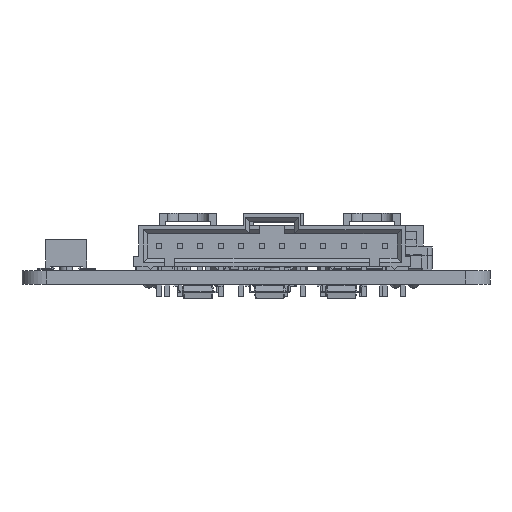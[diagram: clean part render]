
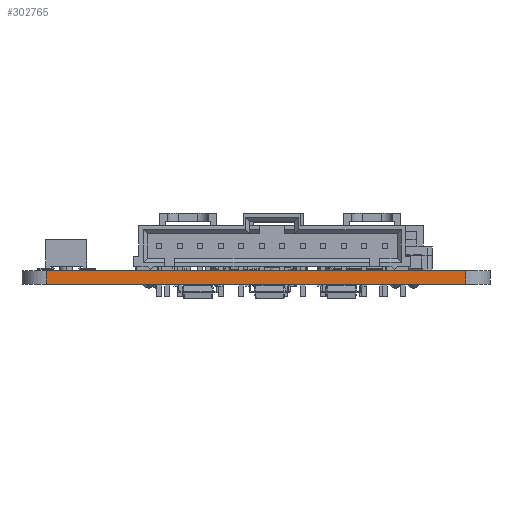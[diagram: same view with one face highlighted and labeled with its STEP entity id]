
A CAD part, left-side view. The second image highlights one B-rep face of the part: STEP entity #302765.
In plain terms, the highlighted planar face has unit normal (-1, 0, 0).
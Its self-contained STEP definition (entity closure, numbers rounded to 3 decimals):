
#297187 = PLANE('',#297188);
#297188 = AXIS2_PLACEMENT_3D('',#297189,#297190,#297191);
#297189 = CARTESIAN_POINT('',(92.5,-98.,1.684));
#297190 = DIRECTION('',(0.,0.,1.));
#297191 = DIRECTION('',(1.,0.,-0.));
#297215 = CYLINDRICAL_SURFACE('',#297216,3.);
#297216 = AXIS2_PLACEMENT_3D('',#297217,#297218,#297219);
#297217 = CARTESIAN_POINT('',(63.,-72.,0.));
#297218 = DIRECTION('',(-0.,-0.,-1.));
#297219 = DIRECTION('',(1.,0.,-0.));
#297241 = PLANE('',#297242);
#297242 = AXIS2_PLACEMENT_3D('',#297243,#297244,#297245);
#297243 = CARTESIAN_POINT('',(92.5,-98.,0.));
#297244 = DIRECTION('',(0.,0.,1.));
#297245 = DIRECTION('',(1.,0.,-0.));
#297336 = VERTEX_POINT('',#297337);
#297337 = CARTESIAN_POINT('',(60.,-72.,1.684));
#297359 = EDGE_CURVE('',#297360,#297336,#297362,.T.);
#297360 = VERTEX_POINT('',#297361);
#297361 = CARTESIAN_POINT('',(60.,-72.,0.));
#297362 = SURFACE_CURVE('',#297363,(#297367,#297374),.PCURVE_S1.);
#297363 = LINE('',#297364,#297365);
#297364 = CARTESIAN_POINT('',(60.,-72.,0.));
#297365 = VECTOR('',#297366,1.);
#297366 = DIRECTION('',(0.,0.,1.));
#297367 = PCURVE('',#297215,#297368);
#297368 = DEFINITIONAL_REPRESENTATION('',(#297369),#297373);
#297369 = LINE('',#297370,#297371);
#297370 = CARTESIAN_POINT('',(-3.142,0.));
#297371 = VECTOR('',#297372,1.);
#297372 = DIRECTION('',(-0.,-1.));
#297373 = ( GEOMETRIC_REPRESENTATION_CONTEXT(2) 
PARAMETRIC_REPRESENTATION_CONTEXT() REPRESENTATION_CONTEXT('2D SPACE',''
  ) );
#297374 = PCURVE('',#297375,#297380);
#297375 = PLANE('',#297376);
#297376 = AXIS2_PLACEMENT_3D('',#297377,#297378,#297379);
#297377 = CARTESIAN_POINT('',(60.,-72.,0.));
#297378 = DIRECTION('',(1.,0.,-0.));
#297379 = DIRECTION('',(0.,-1.,0.));
#297380 = DEFINITIONAL_REPRESENTATION('',(#297381),#297385);
#297381 = LINE('',#297382,#297383);
#297382 = CARTESIAN_POINT('',(0.,0.));
#297383 = VECTOR('',#297384,1.);
#297384 = DIRECTION('',(0.,-1.));
#297385 = ( GEOMETRIC_REPRESENTATION_CONTEXT(2) 
PARAMETRIC_REPRESENTATION_CONTEXT() REPRESENTATION_CONTEXT('2D SPACE',''
  ) );
#297414 = EDGE_CURVE('',#297360,#297415,#297417,.T.);
#297415 = VERTEX_POINT('',#297416);
#297416 = CARTESIAN_POINT('',(60.,-124.,0.));
#297417 = SURFACE_CURVE('',#297418,(#297422,#297429),.PCURVE_S1.);
#297418 = LINE('',#297419,#297420);
#297419 = CARTESIAN_POINT('',(60.,-72.,0.));
#297420 = VECTOR('',#297421,1.);
#297421 = DIRECTION('',(0.,-1.,0.));
#297422 = PCURVE('',#297241,#297423);
#297423 = DEFINITIONAL_REPRESENTATION('',(#297424),#297428);
#297424 = LINE('',#297425,#297426);
#297425 = CARTESIAN_POINT('',(-32.5,26.));
#297426 = VECTOR('',#297427,1.);
#297427 = DIRECTION('',(0.,-1.));
#297428 = ( GEOMETRIC_REPRESENTATION_CONTEXT(2) 
PARAMETRIC_REPRESENTATION_CONTEXT() REPRESENTATION_CONTEXT('2D SPACE',''
  ) );
#297429 = PCURVE('',#297375,#297430);
#297430 = DEFINITIONAL_REPRESENTATION('',(#297431),#297435);
#297431 = LINE('',#297432,#297433);
#297432 = CARTESIAN_POINT('',(0.,0.));
#297433 = VECTOR('',#297434,1.);
#297434 = DIRECTION('',(1.,0.));
#297435 = ( GEOMETRIC_REPRESENTATION_CONTEXT(2) 
PARAMETRIC_REPRESENTATION_CONTEXT() REPRESENTATION_CONTEXT('2D SPACE',''
  ) );
#297454 = CYLINDRICAL_SURFACE('',#297455,3.);
#297455 = AXIS2_PLACEMENT_3D('',#297456,#297457,#297458);
#297456 = CARTESIAN_POINT('',(63.,-124.,0.));
#297457 = DIRECTION('',(-0.,-0.,-1.));
#297458 = DIRECTION('',(1.,0.,-0.));
#300309 = EDGE_CURVE('',#297336,#300310,#300312,.T.);
#300310 = VERTEX_POINT('',#300311);
#300311 = CARTESIAN_POINT('',(60.,-124.,1.684));
#300312 = SURFACE_CURVE('',#300313,(#300317,#300324),.PCURVE_S1.);
#300313 = LINE('',#300314,#300315);
#300314 = CARTESIAN_POINT('',(60.,-72.,1.684));
#300315 = VECTOR('',#300316,1.);
#300316 = DIRECTION('',(0.,-1.,0.));
#300317 = PCURVE('',#297187,#300318);
#300318 = DEFINITIONAL_REPRESENTATION('',(#300319),#300323);
#300319 = LINE('',#300320,#300321);
#300320 = CARTESIAN_POINT('',(-32.5,26.));
#300321 = VECTOR('',#300322,1.);
#300322 = DIRECTION('',(0.,-1.));
#300323 = ( GEOMETRIC_REPRESENTATION_CONTEXT(2) 
PARAMETRIC_REPRESENTATION_CONTEXT() REPRESENTATION_CONTEXT('2D SPACE',''
  ) );
#300324 = PCURVE('',#297375,#300325);
#300325 = DEFINITIONAL_REPRESENTATION('',(#300326),#300330);
#300326 = LINE('',#300327,#300328);
#300327 = CARTESIAN_POINT('',(0.,-1.684));
#300328 = VECTOR('',#300329,1.);
#300329 = DIRECTION('',(1.,0.));
#300330 = ( GEOMETRIC_REPRESENTATION_CONTEXT(2) 
PARAMETRIC_REPRESENTATION_CONTEXT() REPRESENTATION_CONTEXT('2D SPACE',''
  ) );
#302765 = ADVANCED_FACE('',(#302766),#297375,.F.);
#302766 = FACE_BOUND('',#302767,.F.);
#302767 = EDGE_LOOP('',(#302768,#302769,#302770,#302791));
#302768 = ORIENTED_EDGE('',*,*,#297359,.T.);
#302769 = ORIENTED_EDGE('',*,*,#300309,.T.);
#302770 = ORIENTED_EDGE('',*,*,#302771,.F.);
#302771 = EDGE_CURVE('',#297415,#300310,#302772,.T.);
#302772 = SURFACE_CURVE('',#302773,(#302777,#302784),.PCURVE_S1.);
#302773 = LINE('',#302774,#302775);
#302774 = CARTESIAN_POINT('',(60.,-124.,0.));
#302775 = VECTOR('',#302776,1.);
#302776 = DIRECTION('',(0.,0.,1.));
#302777 = PCURVE('',#297375,#302778);
#302778 = DEFINITIONAL_REPRESENTATION('',(#302779),#302783);
#302779 = LINE('',#302780,#302781);
#302780 = CARTESIAN_POINT('',(52.,0.));
#302781 = VECTOR('',#302782,1.);
#302782 = DIRECTION('',(0.,-1.));
#302783 = ( GEOMETRIC_REPRESENTATION_CONTEXT(2) 
PARAMETRIC_REPRESENTATION_CONTEXT() REPRESENTATION_CONTEXT('2D SPACE',''
  ) );
#302784 = PCURVE('',#297454,#302785);
#302785 = DEFINITIONAL_REPRESENTATION('',(#302786),#302790);
#302786 = LINE('',#302787,#302788);
#302787 = CARTESIAN_POINT('',(-3.142,0.));
#302788 = VECTOR('',#302789,1.);
#302789 = DIRECTION('',(-0.,-1.));
#302790 = ( GEOMETRIC_REPRESENTATION_CONTEXT(2) 
PARAMETRIC_REPRESENTATION_CONTEXT() REPRESENTATION_CONTEXT('2D SPACE',''
  ) );
#302791 = ORIENTED_EDGE('',*,*,#297414,.F.);
